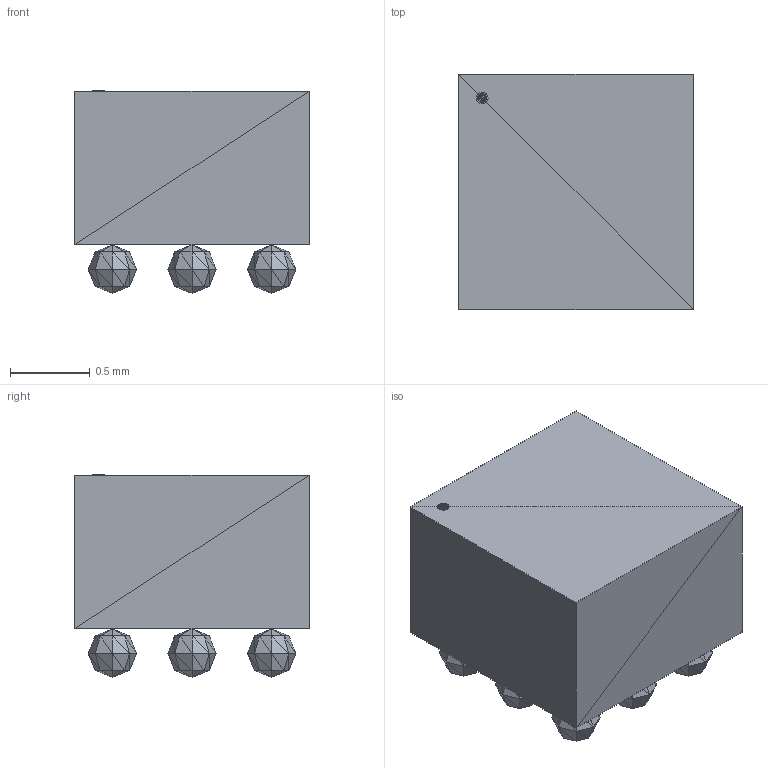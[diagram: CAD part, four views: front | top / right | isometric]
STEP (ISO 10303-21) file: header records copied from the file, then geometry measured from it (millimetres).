
FILE_DESCRIPTION(('STEP AP214'),'1');
FILE_NAME('YZF9','2018-11-16T14:21:56',(''),(''),'','','');
FILE_SCHEMA(('AUTOMOTIVE_DESIGN'));
Length unit declared in the file: millimetre
Products named in the file (1): product
Bounding box: 1.47 x 1.47 x 1.27 mm (x, y, z)
Surface area: 12.3 mm2 (no closed solid volume)
Topology: 0 solids, 572 shells, 572 faces, 1716 edges, 1716 vertices
Faces by surface type: plane 572
Entity records: 18935 total; most frequent: CARTESIAN_POINT 4005, DIRECTION 2862, ORIENTED_EDGE 1716, EDGE_CURVE 1716, VERTEX_POINT 1716, LINE 1716, VECTOR 1716, AXIS2_PLACEMENT_3D 573
